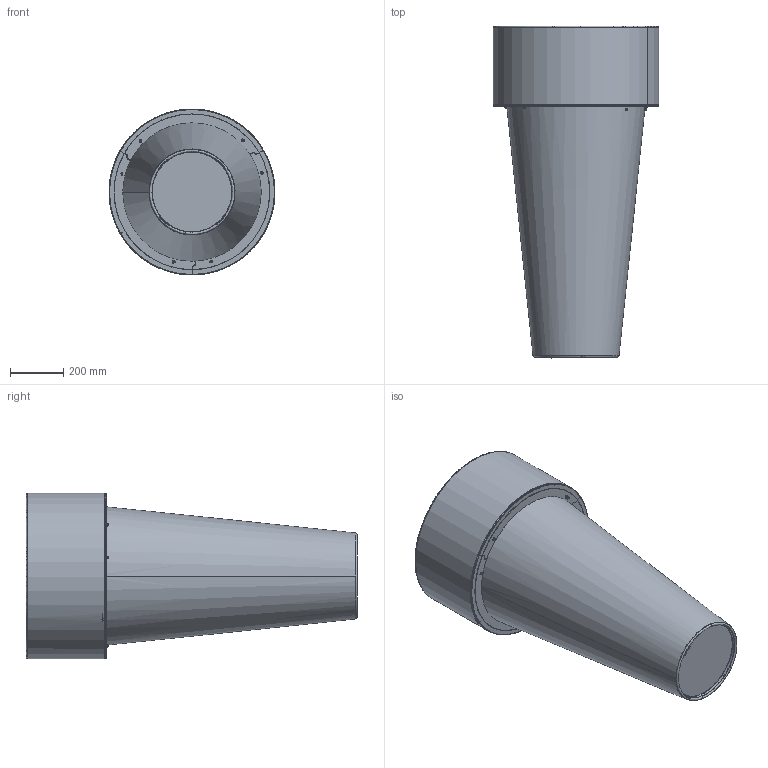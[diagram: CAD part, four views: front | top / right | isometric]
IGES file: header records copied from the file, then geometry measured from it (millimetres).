
Start section: SolidWorks IGES file using analytic representation for surfaces
Global section: file name: C:\VaultDeCastelli\Progetti\DC\PESO LEGGERO PRODOTTI\Ale\DeCastelli-3D-Delta 117.igs; native system: SolidWorks 2022; preprocessor: SolidWorks 2022; author: AlessandroP; date: 240802.102809; units: millimetre
Bounding box: 621.49 x 1242.74 x 621.5 mm (x, y, z)
Surface area: 3127211.1 mm2 (no closed solid volume)
Topology: 0 solids, 0 shells, 115 faces, 2570 edges, 2570 vertices
Faces by surface type: bspline 81, revolution 34
